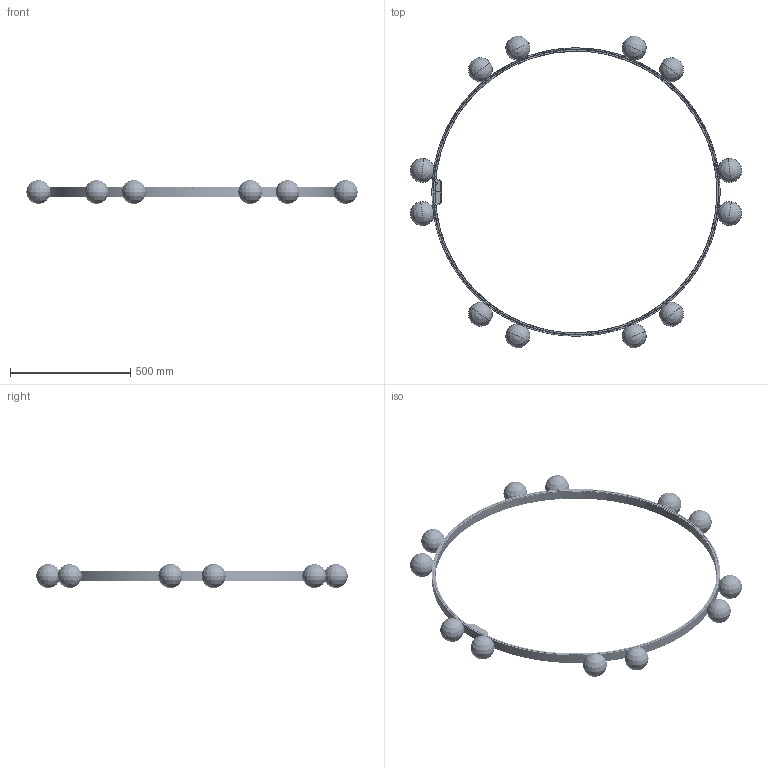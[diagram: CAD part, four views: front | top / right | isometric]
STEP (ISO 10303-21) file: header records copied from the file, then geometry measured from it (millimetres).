
FILE_DESCRIPTION(/* description */ (''),/* implementation_level */ '2;1');
FILE_NAME(/* name */ 'M106__~3',/* time_stamp */ '2024-07-03T12:25:49+02:00',/* author */ (''),/* organization */ (''),/* preprocessor_version */ 'ST-DEVELOPER v16.5',/* originating_system */ '',/* authorisation */ '');
FILE_SCHEMA (('AUTOMOTIVE_DESIGN'));
Length unit declared in the file: centimetre
Products named in the file (1): Document
Bounding box: 1379.84 x 1298.24 x 100 mm (x, y, z)
Volume: 10464154.7 mm3; surface area: 1688568.5 mm2
Topology: 41 solids, 41 shells, 860 faces, 2060 edges, 1227 vertices
Faces by surface type: bspline 644, plane 216
Entity records: 39956 total; most frequent: CARTESIAN_POINT 28079, ORIENTED_EDGE 3924, EDGE_CURVE 1962, VERTEX_POINT 1227, EDGE_LOOP 1033, ADVANCED_FACE 860, FACE_OUTER_BOUND 860, B_SPLINE_CURVE_WITH_KNOTS 756
